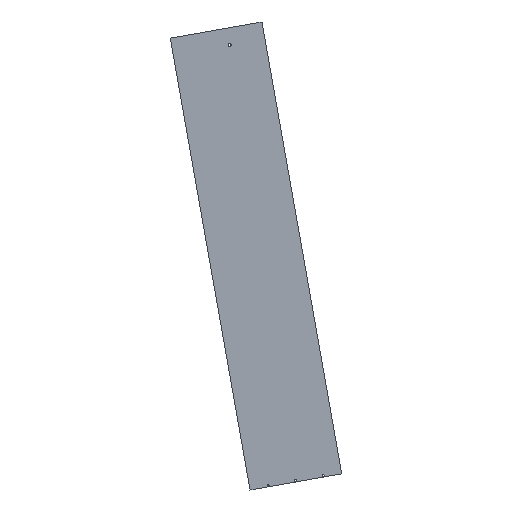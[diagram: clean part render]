
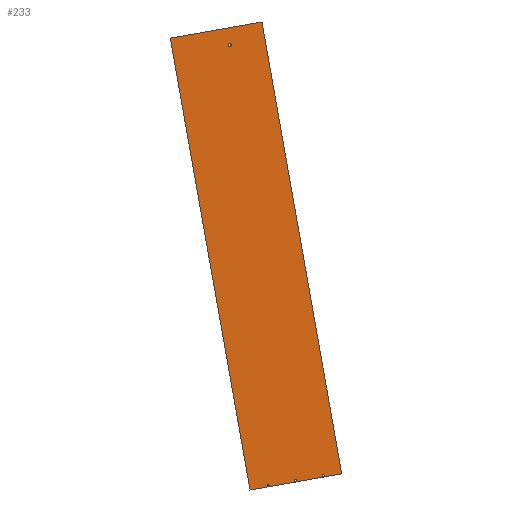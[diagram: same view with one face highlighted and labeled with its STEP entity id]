
A CAD part, left-side view. The second image highlights one B-rep face of the part: STEP entity #233.
In plain terms, the highlighted planar face has unit normal (-1, 0, 0).
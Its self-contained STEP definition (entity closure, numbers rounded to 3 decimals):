
#27=CARTESIAN_POINT('',(-438.5,-122.618,206.727));
#28=VERTEX_POINT('',#27);
#45=CARTESIAN_POINT('',(-438.5,-418.06,258.821));
#46=VERTEX_POINT('',#45);
#53=CARTESIAN_POINT('',(-438.5,-122.618,206.727));
#54=DIRECTION('',(0.0,-0.985,0.174));
#55=VECTOR('',#54,1.);
#56=LINE('',#53,#55);
#57=EDGE_CURVE('',#28,#46,#56,.T.);
#142=CARTESIAN_POINT('',(-438.5,134.034,1662.273));
#143=VERTEX_POINT('',#142);
#150=CARTESIAN_POINT('',(-438.5,-161.408,1714.367));
#151=VERTEX_POINT('',#150);
#152=CARTESIAN_POINT('',(-438.5,134.034,1662.273));
#153=DIRECTION('',(0.0,-0.985,0.174));
#154=VECTOR('',#153,1.);
#155=LINE('',#152,#154);
#156=EDGE_CURVE('',#143,#151,#155,.T.);
#168=CARTESIAN_POINT('',(-438.5,134.034,1662.273));
#169=DIRECTION('',(-1.0,0.0,0.0));
#170=DIRECTION('',(0.0,-0.174,-0.985));
#171=AXIS2_PLACEMENT_3D('',#168,#169,#170);
#172=PLANE('',#171);
#173=CARTESIAN_POINT('',(-438.5,134.034,1662.273));
#174=DIRECTION('',(0.,-0.174,-0.985));
#175=VECTOR('',#174,1.);
#176=LINE('',#173,#175);
#177=EDGE_CURVE('',#143,#28,#176,.T.);
#178=ORIENTED_EDGE('',*,*,#177,.T.);
#179=ORIENTED_EDGE('',*,*,#57,.T.);
#180=CARTESIAN_POINT('',(-438.5,-161.408,1714.367));
#181=DIRECTION('',(0.,-0.174,-0.985));
#182=VECTOR('',#181,1.);
#183=LINE('',#180,#182);
#184=EDGE_CURVE('',#151,#46,#183,.T.);
#185=ORIENTED_EDGE('',*,*,#184,.F.);
#186=ORIENTED_EDGE('',*,*,#156,.F.);
#187=EDGE_LOOP('',(#178,#179,#185,#186));
#188=FACE_OUTER_BOUND('',#187,.T.);
#189=CARTESIAN_POINT('',(-438.5,-180.265,225.319));
#190=VERTEX_POINT('',#189);
#191=CARTESIAN_POINT('',(-438.5,-180.838,222.07));
#192=DIRECTION('',(-1.0,0.,0.));
#193=DIRECTION('',(0.,0.174,0.985));
#194=AXIS2_PLACEMENT_3D('',#191,#192,#193);
#195=CIRCLE('',#194,3.3);
#196=EDGE_CURVE('',#190,#190,#195,.T.);
#197=ORIENTED_EDGE('',*,*,#196,.F.);
#198=EDGE_LOOP('',(#197));
#199=FACE_BOUND('',#198,.T.);
#200=CARTESIAN_POINT('',(-438.5,-268.898,240.948));
#201=VERTEX_POINT('',#200);
#202=CARTESIAN_POINT('',(-438.5,-269.471,237.698));
#203=DIRECTION('',(-1.0,0.,0.));
#204=DIRECTION('',(0.,0.174,0.985));
#205=AXIS2_PLACEMENT_3D('',#202,#203,#204);
#206=CIRCLE('',#205,3.3);
#207=EDGE_CURVE('',#201,#201,#206,.T.);
#208=ORIENTED_EDGE('',*,*,#207,.F.);
#209=EDGE_LOOP('',(#208));
#210=FACE_BOUND('',#209,.T.);
#211=CARTESIAN_POINT('',(-438.5,-357.53,256.576));
#212=VERTEX_POINT('',#211);
#213=CARTESIAN_POINT('',(-438.5,-358.103,253.326));
#214=DIRECTION('',(-1.0,0.,0.));
#215=DIRECTION('',(0.,0.174,0.985));
#216=AXIS2_PLACEMENT_3D('',#213,#214,#215);
#217=CIRCLE('',#216,3.3);
#218=EDGE_CURVE('',#212,#212,#217,.T.);
#219=ORIENTED_EDGE('',*,*,#218,.F.);
#220=EDGE_LOOP('',(#219));
#221=FACE_BOUND('',#220,.T.);
#222=CARTESIAN_POINT('',(-438.5,-56.925,1644.665));
#223=VERTEX_POINT('',#222);
#224=CARTESIAN_POINT('',(-438.5,-57.706,1640.233));
#225=DIRECTION('',(-1.0,0.,0.));
#226=DIRECTION('',(0.,0.174,0.985));
#227=AXIS2_PLACEMENT_3D('',#224,#225,#226);
#228=CIRCLE('',#227,4.5);
#229=EDGE_CURVE('',#223,#223,#228,.T.);
#230=ORIENTED_EDGE('',*,*,#229,.F.);
#231=EDGE_LOOP('',(#230));
#232=FACE_BOUND('',#231,.T.);
#233=ADVANCED_FACE('',(#188,#199,#210,#221,#232),#172,.T.);
